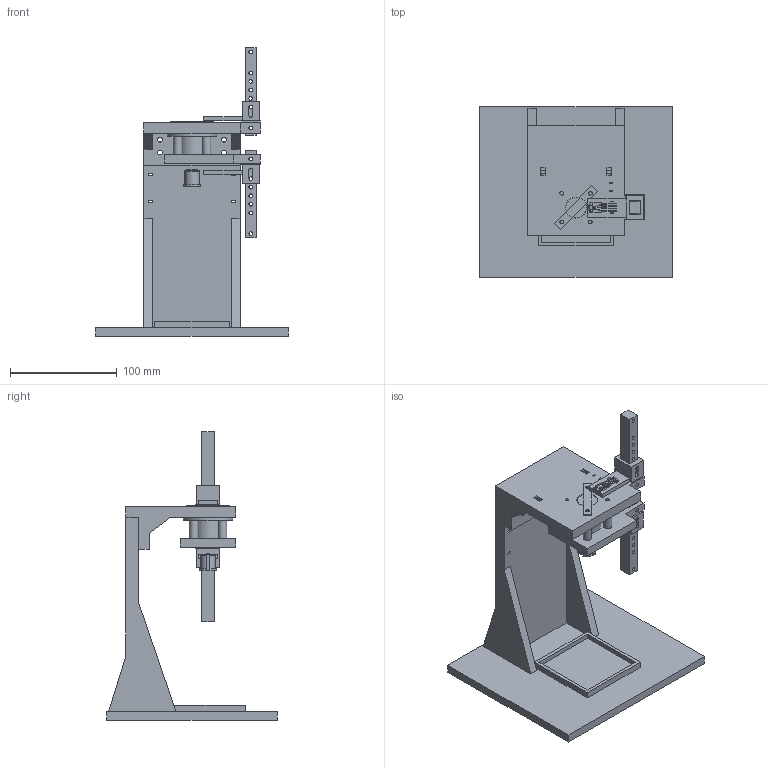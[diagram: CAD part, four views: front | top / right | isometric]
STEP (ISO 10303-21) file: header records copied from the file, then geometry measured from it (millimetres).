
FILE_DESCRIPTION(('Open CASCADE Model'),'2;1');
FILE_NAME('Open CASCADE Shape Model','2026-11-12T16:33:15',('Author'),( 'Open CASCADE'),'Open CASCADE STEP processor 7.9','Open CASCADE 7.9' ,'Unknown');
FILE_SCHEMA(('AUTOMOTIVE_DESIGN { 1 0 10303 214 1 1 1 1 }'));
Length unit declared in the file: millimetre
Products named in the file (21): OPTIONAL_top_stack_configuration; 01_frame_base_upright_tray; 02_cantilever_vented_head_upper_sensor; 03_four_DC1_stack_cassette_lower_LPG_seat; 04_D68_payload_carrier; 05_upper_indexed_rail; 06_lower_indexed_rail; 07_upper_LPG_sliding_carriage; 08_lower_LPG_sliding_carriage; REF_EM_nominal_25x20; REF_D68_N52_gap15; REF_DRV5056_lower_LPG_max_body; REF_DRV5056_upper_LPG_max_body; REF_lower_leads_formed; REF_upper_leads_formed; REF_nylon_retaining_loop_envelope; NONPRINT_top_stack_retainer_strip; REF_TOP_DC1_disk_1; REF_TOP_DC1_disk_2; REF_TOP_DC1_disk_3; REF_TOP_DC1_disk_4
Assembly tree (20 placements, depth 2):
  OPTIONAL_top_stack_configuration
    01_frame_base_upright_tray
    02_cantilever_vented_head_upper_sensor
    03_four_DC1_stack_cassette_lower_LPG_seat
    04_D68_payload_carrier
    05_upper_indexed_rail
    06_lower_indexed_rail
    07_upper_LPG_sliding_carriage
    08_lower_LPG_sliding_carriage
    REF_EM_nominal_25x20
    REF_D68_N52_gap15
    REF_DRV5056_lower_LPG_max_body
    REF_DRV5056_upper_LPG_max_body
    REF_lower_leads_formed
    REF_upper_leads_formed
    REF_nylon_retaining_loop_envelope
    NONPRINT_top_stack_retainer_strip
    REF_TOP_DC1_disk_1
    REF_TOP_DC1_disk_2
    REF_TOP_DC1_disk_3
    REF_TOP_DC1_disk_4
Bounding box: 180 x 160 x 270 mm (x, y, z)
Volume: 670575.9 mm3; surface area: 187321.2 mm2
Topology: 24 solids, 24 shells, 526 faces, 1397 edges, 926 vertices
Faces by surface type: plane 457, cylinder 69
Full cylindrical faces by diameter (mm): 0.55 x6, 3.4 x28, 4.5 x8, 8 x4, 9.525 x1, 10 x1, 19.05 x4, 19.6 x2, 25 x1, 26 x1, 46 x1
Entity records: 34319 total; most frequent: CARTESIAN_POINT 6648, DIRECTION 4702, LINE 3009, VECTOR 3009, ORIENTED_EDGE 2794, PCURVE 2794, DEFINITIONAL_REPRESENTATION 2794, EDGE_CURVE 1397
